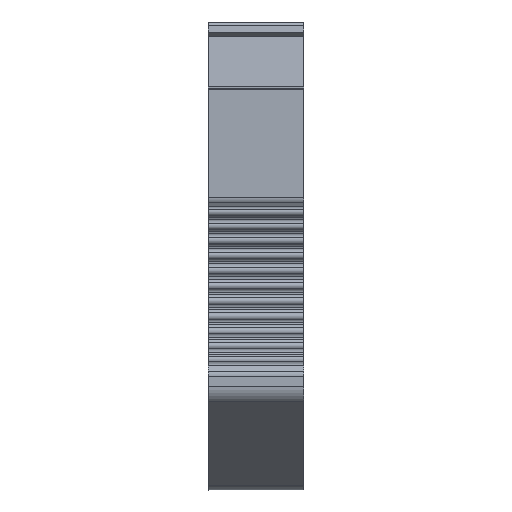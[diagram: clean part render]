
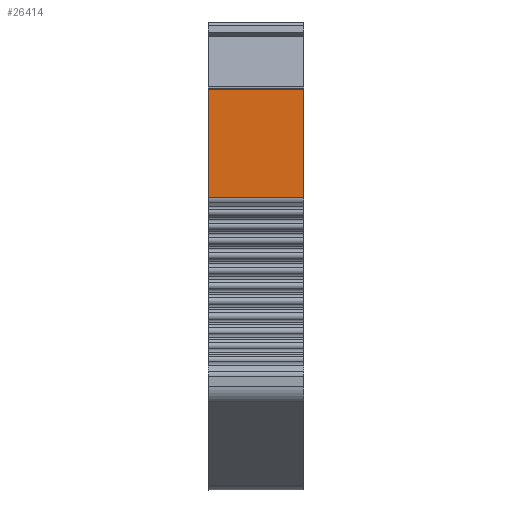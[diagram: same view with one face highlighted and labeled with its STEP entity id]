
A CAD part, left-side view. The second image highlights one B-rep face of the part: STEP entity #26414.
In plain terms, the highlighted planar face has unit normal (-1, 0, 0).
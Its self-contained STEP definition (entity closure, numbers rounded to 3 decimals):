
#739=DIRECTION('',(0.,0.,1.));
#740=VECTOR('',#739,11.471);
#741=CARTESIAN_POINT('',(0.,0.082,
-18.818));
#742=LINE('',#741,#740);
#2408=DIRECTION('',(0.,0.,-1.));
#2409=VECTOR('',#2408,11.471);
#2410=CARTESIAN_POINT('',(0.,10.232,
-7.347));
#2411=LINE('',#2410,#2409);
#8199=DIRECTION('',(0.,-1.,0.));
#8200=VECTOR('',#8199,10.15);
#8201=CARTESIAN_POINT('',(0.,10.232,
-18.818));
#8202=LINE('',#8201,#8200);
#8203=DIRECTION('',(0.,1.,0.));
#8204=VECTOR('',#8203,10.15);
#8205=CARTESIAN_POINT('',(0.,0.082,
-7.347));
#8206=LINE('',#8205,#8204);
#13114=CARTESIAN_POINT('',(0.,10.232,
-7.347));
#13115=VERTEX_POINT('',#13114);
#13116=CARTESIAN_POINT('',(0.,10.232,
-18.818));
#13117=VERTEX_POINT('',#13116);
#13597=CARTESIAN_POINT('',(0.,0.082,
-18.818));
#13598=VERTEX_POINT('',#13597);
#13599=CARTESIAN_POINT('',(0.,0.082,
-7.347));
#13600=VERTEX_POINT('',#13599);
#26402=CARTESIAN_POINT('',(0.,-0.203,
-7.029));
#26403=DIRECTION('',(-1.,0.,0.));
#26404=DIRECTION('',(0.,-1.,0.));
#26405=AXIS2_PLACEMENT_3D('',#26402,#26403,#26404);
#26406=PLANE('',#26405);
#26407=ORIENTED_EDGE('',*,*,#16574,.F.);
#26408=ORIENTED_EDGE('',*,*,#26397,.F.);
#26409=ORIENTED_EDGE('',*,*,#18043,.F.);
#26411=ORIENTED_EDGE('',*,*,#26410,.F.);
#26412=EDGE_LOOP('',(#26407,#26408,#26409,#26411));
#26413=FACE_OUTER_BOUND('',#26412,.F.);
#26414=ADVANCED_FACE('',(#26413),#26406,.T.);
#16574=EDGE_CURVE('',#13598,#13600,#742,.T.);
#18043=EDGE_CURVE('',#13115,#13117,#2411,.T.);
#26397=EDGE_CURVE('',#13117,#13598,#8202,.T.);
#26410=EDGE_CURVE('',#13600,#13115,#8206,.T.);
